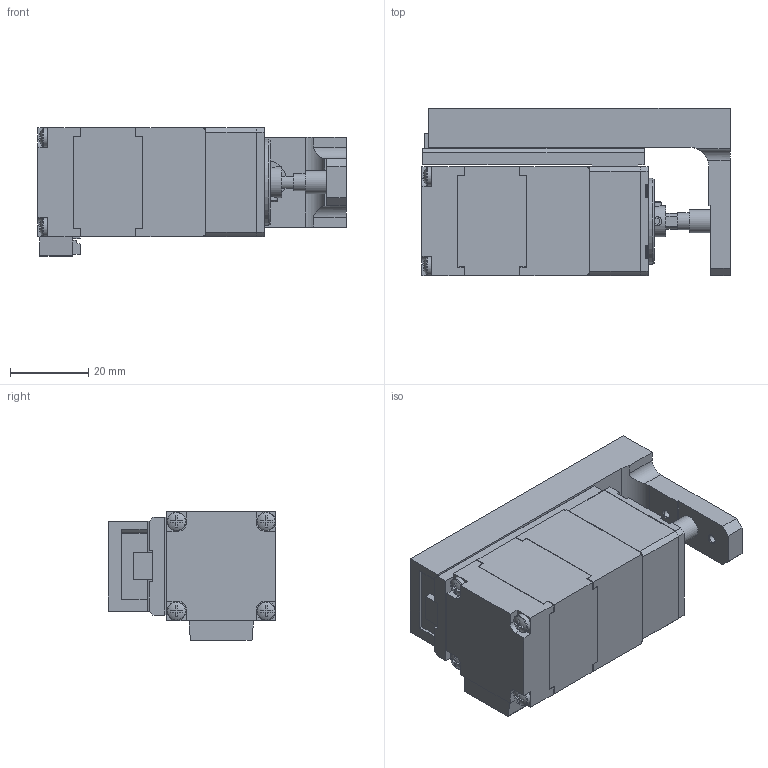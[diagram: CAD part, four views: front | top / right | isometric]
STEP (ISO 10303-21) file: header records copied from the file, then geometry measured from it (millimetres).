
FILE_DESCRIPTION(/* description */ ('STEP AP203'),/* implementation_level */ '2;1');
FILE_NAME(/* name */ 'DRLM28G-03A1P-K(0)',/* time_stamp */ '2026-07-31T11:20:22+02:00',/* author */ ('License CC BY-ND 4.0'),/* organization */ ('CADENAS'),/* preprocessor_version */ 'ST-DEVELOPER v20',/* originating_system */ 'PARTsolutions',/* authorisation */ ' ');
FILE_SCHEMA (('CONFIG_CONTROL_DESIGN'));
Length unit declared in the file: millimetre
Products named in the file (4): DRLM28G-03A1P-K(0); DRLM28MG-30-gt_b; DRLM28AG-03(P)-gt_r; DRLM28-gt_g
Assembly tree (3 placements, depth 2):
  DRLM28G-03A1P-K(0)
    DRLM28MG-30-gt_b
    DRLM28AG-03(P)-gt_r
    DRLM28-gt_g
Bounding box: 79 x 43 x 33 mm (x, y, z)
Volume: 70997.6 mm3; surface area: 22202.8 mm2
Topology: 3 solids, 3 shells, 548 faces, 1404 edges, 915 vertices
Faces by surface type: plane 413, cylinder 79, cone 37, torus 15, sphere 4
Full cylindrical faces by diameter (mm): 2.013 x10, 2.3 x1, 2.459 x1, 3 x11, 3.8 x4, 4 x3, 4.2 x4, 4.3 x1, 4.8 x4, 6 x1, 8 x2, 10 x1, 13 x1, 22 x1
Entity records: 16042 total; most frequent: CARTESIAN_POINT 3021, ORIENTED_EDGE 2606, DIRECTION 2543, EDGE_CURVE 1303, LINE 1013, VECTOR 1013, VERTEX_POINT 908, AXIS2_PLACEMENT_3D 765
